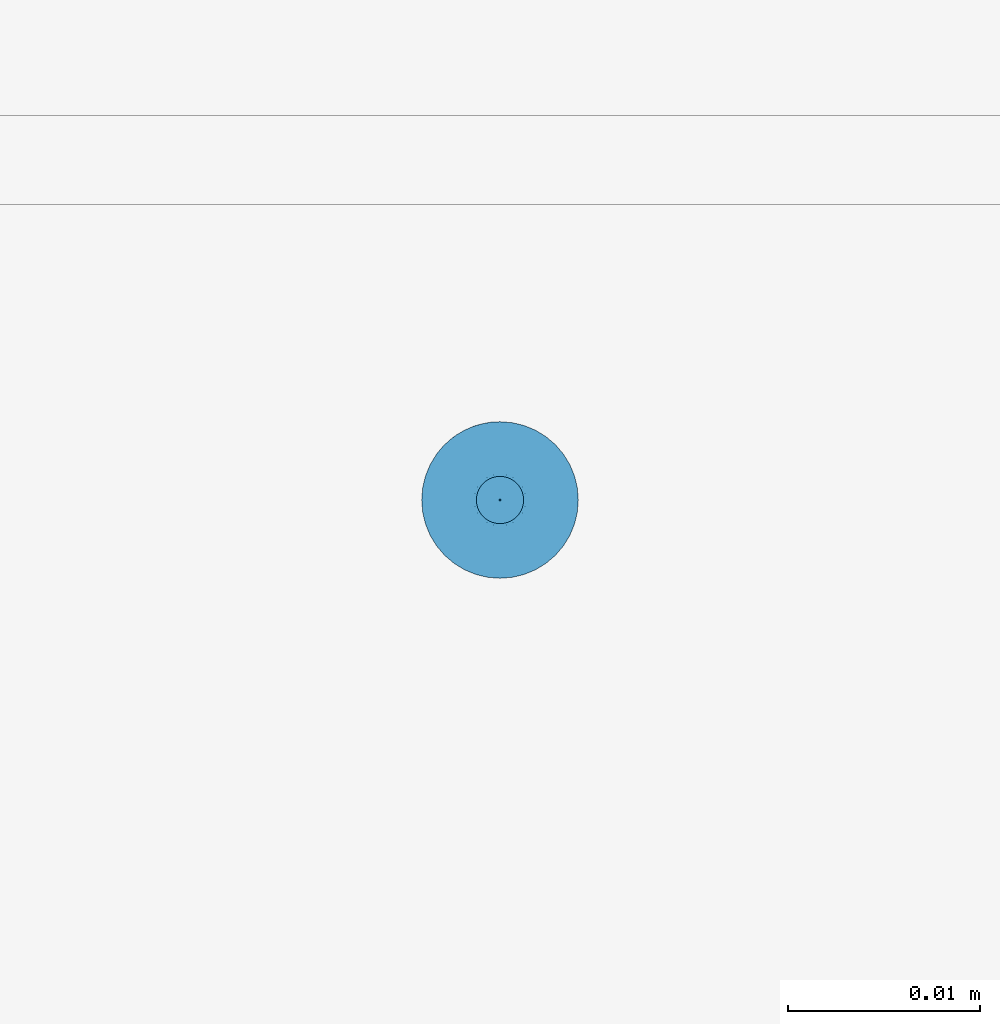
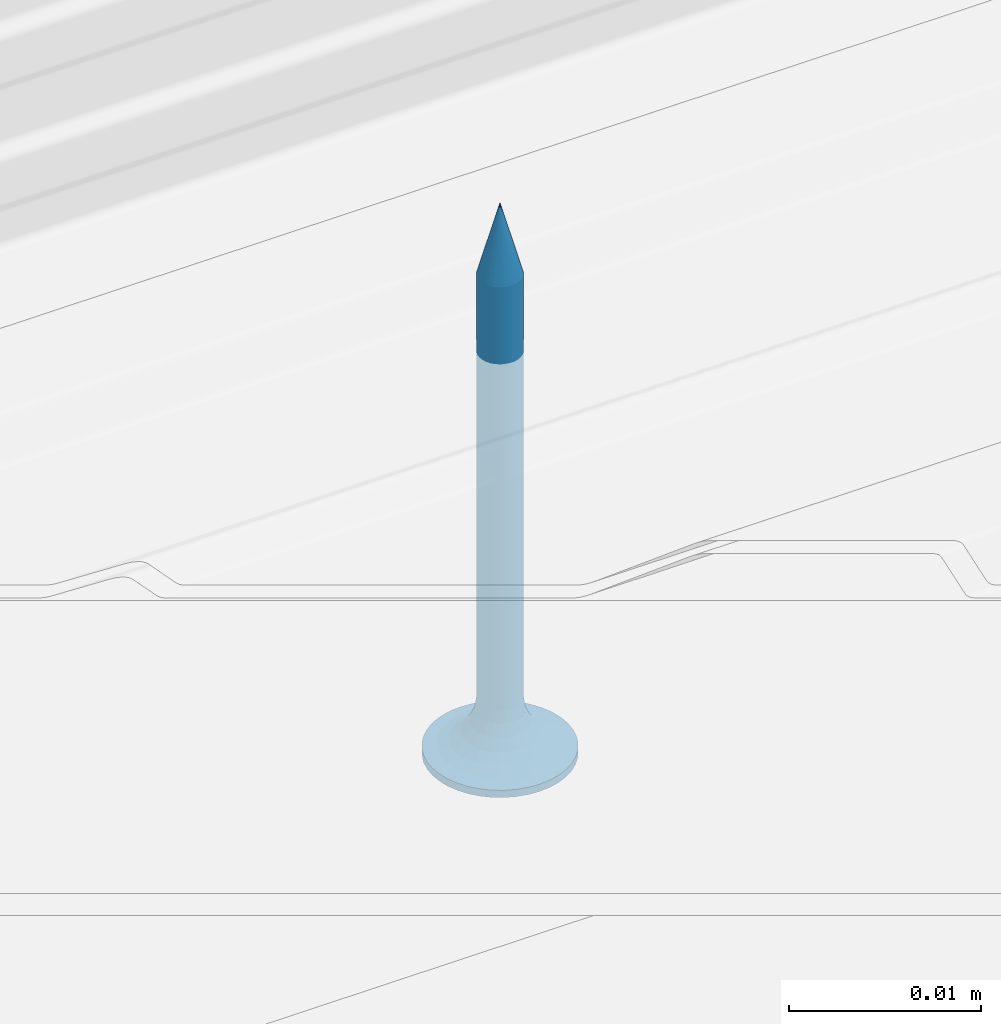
# One storey, part 12 of 73: 1 slab.
"""IFC2X3 building model written with IfcOpenShell, lengths in millimetres."""

from ifc_helpers import new_model, entity, si_unit, converted_unit, direction, frame, origin, origin_with_axes, place, context, project, spatial, faceted_brep, element, save


model = new_model("IFC2X3")

# Units and contexts
model_context = context("Model", 3, precision=1e-05, world=origin(), true_north=direction((0.0, 1.0, 0.0)))
ifc_project = project(units=[si_unit("LENGTHUNIT", "METRE", prefix="MILLI"), si_unit("AREAUNIT", "SQUARE_METRE"), si_unit("VOLUMEUNIT", "CUBIC_METRE"), converted_unit("PLANEANGLEUNIT", "DEGREE", entity("IfcPlaneAngleMeasure", 0.01745), si_unit("PLANEANGLEUNIT", "RADIAN"), dimensions=[0, 0, 0, 0, 0, 0, 0]), si_unit("SOLIDANGLEUNIT", "STERADIAN"), si_unit("MASSUNIT", "GRAM"), si_unit("TIMEUNIT", "SECOND"), si_unit("THERMODYNAMICTEMPERATUREUNIT", "DEGREE_CELSIUS"), si_unit("LUMINOUSINTENSITYUNIT", "LUMEN")], contexts=[model_context])

# Site, building, storey
site_placement = place(None, origin_with_axes())
site = spatial("IfcSite", under=ifc_project, at=site_placement, Name="Default Site", CompositionType="ELEMENT")
building_placement = place(site_placement, origin_with_axes())
building = spatial("IfcBuilding", under=site, at=building_placement, Name="Default Building", CompositionType="ELEMENT")
storey_placement = place(building_placement, origin_with_axes())
storey = spatial("IfcBuildingStorey", under=building, at=storey_placement, Name="Default Building Storey", CompositionType="ELEMENT", Elevation=0.0)

# Slab
slab_placement = place(storey_placement, frame((2340.616074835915, 2284.732776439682, 4358.529348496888), z_axis=(0.0, -1.0, 2.220446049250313e-16), x_axis=(1.0, 1.802054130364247e-31, 8.115730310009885e-16)))
element("IfcSlab", 1, at=slab_placement, inside=storey, Name="Wkręt RIGIPS TN 35", context=model_context, shape_type="Brep", body=[
    faceted_brep([(-138.4548091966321, -3360.55807436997, 556.5233405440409), (-138.3293964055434, -3360.55807436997, 556.6701800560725), (-138.3293964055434, -3387.475459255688, 556.6701800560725), (-138.4548091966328, -3387.475459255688, 556.5233405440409), (-137.2667048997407, -3387.475459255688, 554.5845305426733), (-137.2667048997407, -3360.55807436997, 554.5845305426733), (-137.4592163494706, -3360.55807436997, 554.5693795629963), (-137.4592163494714, -3387.475459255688, 554.5693795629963), (-136.5890362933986, -3387.475459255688, 554.9298199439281), (-136.4636235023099, -3387.475459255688, 555.0766594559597), (-136.4636235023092, -3360.55807436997, 555.0766594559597), (-136.5890362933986, -3360.55807436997, 554.9298199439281), (-136.4636235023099, -3387.475459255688, 556.5233405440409), (-136.5890362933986, -3387.475459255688, 556.6701800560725), (-136.5890362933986, -3360.55807436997, 556.6701800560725), (-136.4636235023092, -3360.55807436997, 556.5233405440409), (-136.9005263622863, -3387.475459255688, 554.7035091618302), (-136.9005263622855, -3360.55807436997, 554.7035091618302), (-137.0789337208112, -3360.55807436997, 554.6296104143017), (-137.078933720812, -3387.475459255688, 554.6296104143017), (-136.7358758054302, -3360.55807436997, 554.8044071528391), (-136.7358758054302, -3387.475459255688, 554.8044071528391), (-137.6517277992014, -3360.55807436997, 554.5845305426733), (-137.6517277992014, -3387.475459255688, 554.5845305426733), (-136.7358758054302, -3387.475459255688, 556.7955928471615), (-136.7358758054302, -3360.55807436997, 556.7955928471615), (-137.83949897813, -3360.55807436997, 554.6296104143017), (-137.8394989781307, -3387.475459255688, 554.6296104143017), (-138.6746858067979, -3360.55807436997, 555.6074885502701), (-138.6898367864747, -3360.55807436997, 555.8000000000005), (-138.6898367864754, -3387.475459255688, 555.8000000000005), (-138.6746858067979, -3387.475459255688, 555.6074885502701), (-138.3293964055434, -3360.55807436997, 554.9298199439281), (-138.4548091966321, -3360.55807436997, 555.0766594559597), (-138.4548091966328, -3387.475459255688, 555.0766594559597), (-138.3293964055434, -3387.475459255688, 554.9298199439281), (-138.0179063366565, -3387.475459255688, 554.7035091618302), (-138.0179063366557, -3360.55807436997, 554.7035091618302), (-138.1825568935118, -3360.55807436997, 554.8044071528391), (-138.1825568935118, -3387.475459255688, 554.8044071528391), (-136.2888267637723, -3387.475459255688, 555.4197173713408), (-136.2437468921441, -3387.475459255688, 555.6074885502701), (-136.2437468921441, -3360.55807436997, 555.6074885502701), (-136.2888267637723, -3360.55807436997, 555.4197173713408), (-138.6296059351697, -3360.55807436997, 555.4197173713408), (-138.6296059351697, -3387.475459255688, 555.4197173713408), (-136.9005263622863, -3387.475459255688, 556.8964908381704), (-136.9005263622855, -3360.55807436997, 556.8964908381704), (-137.4592163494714, -3387.475459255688, 557.0306204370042), (-137.4592163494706, -3360.55807436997, 557.0306204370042), (-137.2667048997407, -3360.55807436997, 557.0154694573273), (-137.2667048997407, -3387.475459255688, 557.0154694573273), (-138.1825568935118, -3387.475459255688, 556.7955928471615), (-138.1825568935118, -3360.55807436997, 556.7955928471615), (-138.0179063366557, -3360.55807436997, 556.8964908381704), (-138.0179063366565, -3387.475459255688, 556.8964908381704), (-136.3627255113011, -3387.475459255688, 556.3586899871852), (-136.3627255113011, -3360.55807436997, 556.3586899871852), (-136.3627255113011, -3387.475459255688, 555.241310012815), (-136.3627255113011, -3360.55807436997, 555.241310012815), (-138.5557071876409, -3360.55807436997, 555.241310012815), (-138.5557071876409, -3387.475459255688, 555.241310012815), (-136.2285959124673, -3387.475459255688, 555.8000000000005), (-136.2285959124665, -3360.55807436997, 555.8000000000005), (-137.8394989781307, -3387.475459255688, 556.9703895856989), (-137.83949897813, -3360.55807436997, 556.9703895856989), (-137.6517277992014, -3360.55807436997, 557.0154694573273), (-137.6517277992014, -3387.475459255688, 557.0154694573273), (-137.078933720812, -3387.475459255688, 556.9703895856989), (-137.0789337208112, -3360.55807436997, 556.9703895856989), (-136.2437468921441, -3387.475459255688, 555.9925114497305), (-136.2437468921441, -3360.55807436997, 555.9925114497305), (-138.6746858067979, -3360.55807436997, 555.9925114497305), (-138.6746858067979, -3387.475459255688, 555.9925114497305), (-138.6296059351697, -3360.55807436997, 556.1802826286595), (-138.6296059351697, -3387.475459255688, 556.1802826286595), (-136.2888267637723, -3387.475459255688, 556.1802826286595), (-136.2888267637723, -3360.55807436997, 556.1802826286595), (-138.5557071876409, -3360.55807436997, 556.3586899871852), (-138.5557071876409, -3387.475459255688, 556.3586899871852), (-141.5377463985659, -3390.556721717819, 555.8000000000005), (-141.5377463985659, -3391.020944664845, 555.8000000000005), (-141.4875329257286, -3391.020944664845, 555.1619773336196), (-141.4875329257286, -3390.556721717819, 555.1619773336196), (-141.338128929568, -3391.020944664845, 554.539664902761), (-141.338128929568, -3390.556721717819, 554.539664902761), (-141.0932132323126, -3391.020944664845, 553.948386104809), (-141.0932132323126, -3390.556721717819, 553.948386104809), (-140.7588164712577, -3391.020944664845, 553.4027001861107), (-140.7588164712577, -3390.556721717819, 553.4027001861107), (-140.3431726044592, -3391.020944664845, 552.9160437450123), (-140.4541727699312, -3390.556721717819, 553.0314907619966), (-140.1080097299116, -3390.556721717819, 552.6986614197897), (-139.8565161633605, -3391.020944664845, 552.5003998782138), (-139.7251262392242, -3390.556721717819, 552.4088262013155), (-139.3108302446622, -3391.020944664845, 552.1660031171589), (-139.3108302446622, -3390.556721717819, 552.1660031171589), (-138.8708651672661, -3390.556721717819, 551.9735584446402), (-138.7195514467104, -3391.020944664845, 551.9210874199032), (-138.4113302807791, -3390.556721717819, 551.8341600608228), (-137.9385961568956, -3390.556721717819, 551.7497404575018), (-138.0972390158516, -3391.020944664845, 551.7716834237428), (-137.4592163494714, -3391.020944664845, 551.7214699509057), (-137.4592163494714, -3390.556721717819, 551.7214699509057), (-136.8211936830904, -3391.020944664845, 551.7716834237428), (-136.8211936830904, -3390.556721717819, 551.7716834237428), (-136.1988812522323, -3391.020944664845, 551.9210874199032), (-136.1988812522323, -3390.556721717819, 551.9210874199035), (-135.6076024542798, -3391.020944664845, 552.1660031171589), (-135.6076024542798, -3390.556721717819, 552.1660031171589), (-135.0619165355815, -3391.020944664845, 552.5003998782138), (-135.0619165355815, -3390.556721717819, 552.5003998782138), (-134.5752600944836, -3391.020944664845, 552.9160437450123), (-134.5752600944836, -3390.556721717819, 552.9160437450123), (-134.1596162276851, -3391.020944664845, 553.4027001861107), (-134.1596162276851, -3390.556721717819, 553.4027001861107), (-133.8252194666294, -3391.020944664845, 553.948386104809), (-133.8252194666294, -3390.556721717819, 553.948386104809), (-133.580303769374, -3391.020944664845, 554.539664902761), (-133.580303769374, -3390.556721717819, 554.539664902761), (-133.4308997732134, -3391.020944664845, 556.438022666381), (-133.4308997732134, -3390.556721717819, 556.438022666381), (-133.3806863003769, -3390.556721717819, 555.8000000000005), (-133.3806863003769, -3391.020944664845, 555.8000000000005), (-133.4308997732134, -3390.556721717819, 555.1619773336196), (-133.4308997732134, -3391.020944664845, 555.1619773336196), (-133.580303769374, -3391.020944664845, 557.0603350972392), (-133.580303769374, -3390.556721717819, 557.0603350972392), (-133.8252194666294, -3391.020944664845, 557.6516138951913), (-133.8252194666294, -3390.556721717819, 557.6516138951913), (-134.1596162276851, -3391.020944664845, 558.1972998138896), (-134.1596162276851, -3390.556721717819, 558.1972998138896), (-134.5752600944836, -3391.020944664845, 558.683956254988), (-134.5752600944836, -3390.556721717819, 558.683956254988), (-135.0619165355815, -3391.020944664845, 559.0996001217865), (-135.0619165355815, -3390.556721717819, 559.0996001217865), (-135.6076024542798, -3391.020944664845, 559.4339968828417), (-135.6076024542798, -3390.556721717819, 559.4339968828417), (-136.1988812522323, -3391.020944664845, 559.6789125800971), (-136.1988812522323, -3390.556721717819, 559.6789125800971), (-136.8211936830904, -3391.020944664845, 559.8283165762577), (-136.8211936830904, -3390.556721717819, 559.8283165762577), (-137.4592163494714, -3391.020944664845, 559.8785300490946), (-137.4592163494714, -3390.556721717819, 559.8785300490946), (-138.0972390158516, -3391.020944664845, 559.8283165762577), (-138.0972390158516, -3390.556721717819, 559.8283165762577), (-138.7195514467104, -3391.020944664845, 559.6789125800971), (-138.7195514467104, -3390.556721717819, 559.6789125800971), (-139.3108302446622, -3391.020944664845, 559.4339968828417), (-139.3108302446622, -3390.556721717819, 559.4339968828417), (-139.8565161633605, -3391.020944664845, 559.0996001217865), (-139.8565161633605, -3390.556721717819, 559.0996001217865), (-140.3431726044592, -3391.020944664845, 558.683956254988), (-140.3431726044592, -3390.556721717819, 558.683956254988), (-140.7588164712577, -3391.020944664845, 558.1972998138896), (-140.7588164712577, -3390.556721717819, 558.1972998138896), (-141.0932132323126, -3391.020944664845, 557.6516138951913), (-141.0932132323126, -3390.556721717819, 557.6516138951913), (-141.338128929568, -3391.020944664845, 557.0603350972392), (-141.338128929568, -3390.556721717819, 557.0603350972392), (-141.4875329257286, -3391.020944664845, 556.438022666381), (-141.4875329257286, -3390.556721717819, 556.438022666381), (-137.8060615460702, -3388.229732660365, 554.5055560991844), (-137.4592163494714, -3388.229732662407, 554.4598930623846), (-138.1292698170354, -3388.229732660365, 554.6394333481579), (-138.4068150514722, -3388.229732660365, 554.8524012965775), (-138.6197830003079, -3388.229732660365, 555.1299465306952), (-138.7536602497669, -3388.229732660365, 555.4531548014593), (-138.7993232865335, -3388.229732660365, 555.7999999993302), (-138.7536602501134, -3388.229732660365, 556.1468451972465), (-138.6197830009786, -3388.229732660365, 556.4700534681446), (-138.4068150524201, -3388.229732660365, 556.7475987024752), (-138.1292698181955, -3388.229732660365, 556.9605666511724), (-137.8060615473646, -3388.229732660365, 557.0944439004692), (-137.4592163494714, -3388.229732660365, 557.1401069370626), (-137.1123711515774, -3388.229732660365, 557.0944439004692), (-136.7891628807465, -3388.229732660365, 556.9605666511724), (-136.5116176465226, -3388.229732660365, 556.7475987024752), (-136.2986496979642, -3388.229732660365, 556.4700534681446), (-136.1647724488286, -3388.229732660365, 556.1468451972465), (-136.1191094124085, -3388.229732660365, 555.7999999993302), (-136.1647724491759, -3388.229732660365, 555.4531548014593), (-136.2986496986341, -3388.229732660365, 555.1299465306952), (-136.5116176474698, -3388.229732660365, 554.8524012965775), (-136.7891628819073, -3388.229732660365, 554.6394333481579), (-137.1123711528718, -3388.229732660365, 554.5055560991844), (-137.4592163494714, -3388.936142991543, 554.1737111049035), (-137.8801308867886, -3388.936142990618, 554.2291255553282), (-138.2723607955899, -3388.936142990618, 554.39159250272), (-138.6091762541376, -3388.936142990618, 554.6500400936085), (-138.8676238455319, -3388.936142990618, 554.9868555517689), (-139.0300907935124, -3388.936142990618, 555.3790854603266), (-139.0855052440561, -3388.936142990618, 555.7999999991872), (-139.0300907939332, -3388.936142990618, 556.2209145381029), (-138.8676238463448, -3388.936142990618, 556.6131444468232), (-138.6091762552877, -3388.936142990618, 556.949959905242), (-138.2723607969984, -3388.936142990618, 557.2084074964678), (-137.8801308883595, -3388.936142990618, 557.3708744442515), (-137.4592163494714, -3388.936142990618, 557.4262888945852), (-137.0383018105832, -3388.936142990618, 557.3708744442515), (-136.6460719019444, -3388.936142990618, 557.2084074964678), (-136.3092564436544, -3388.936142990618, 556.949959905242), (-136.0508088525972, -3388.936142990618, 556.6131444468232), (-135.8883419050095, -3388.936142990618, 556.2209145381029), (-135.8329274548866, -3388.936142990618, 555.7999999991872), (-135.8883419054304, -3388.936142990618, 555.3790854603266), (-136.0508088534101, -3388.936142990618, 554.9868555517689), (-136.3092564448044, -3388.936142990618, 554.6500400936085), (-136.6460719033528, -3388.936142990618, 554.39159250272), (-137.0383018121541, -3388.936142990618, 554.2291255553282), (-137.4592163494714, -3389.553938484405, 553.727343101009), (-137.9956594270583, -3389.553938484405, 553.7979671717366), (-138.4955447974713, -3389.553938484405, 554.0050264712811), (-138.9248060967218, -3389.553938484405, 554.3344102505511), (-139.2541898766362, -3389.553938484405, 554.7636715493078), (-139.46124917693, -3389.553938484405, 555.2635569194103), (-139.5318732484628, -3389.553938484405, 555.7999999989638), (-139.4612491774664, -3389.553938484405, 556.3364430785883), (-139.2541898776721, -3389.553938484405, 556.8363284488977), (-138.9248060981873, -3389.553938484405, 557.2655897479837), (-138.495544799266, -3389.553938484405, 557.5949735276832), (-137.9956594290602, -3389.553938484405, 557.8020328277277), (-137.4592163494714, -3389.553938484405, 557.8726568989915), (-136.9227732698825, -3389.553938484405, 557.8020328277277), (-136.422887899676, -3389.553938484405, 557.5949735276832), (-135.9936266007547, -3389.553938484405, 557.2655897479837), (-135.6642428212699, -3389.553938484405, 556.8363284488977), (-135.4571835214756, -3389.553938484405, 556.3364430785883), (-135.3865594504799, -3389.553938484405, 555.7999999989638), (-135.457183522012, -3389.553938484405, 555.2635569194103), (-135.6642428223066, -3389.553938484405, 554.7636715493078), (-135.9936266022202, -3389.553938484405, 554.3344102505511), (-136.4228879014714, -3389.553938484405, 554.0050264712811), (-136.9227732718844, -3389.553938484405, 553.7979671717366), (-137.4592163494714, -3390.04747944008, 553.1465393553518), (-138.1459824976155, -3390.047479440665, 553.2369538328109), (-138.7859466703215, -3390.047479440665, 553.5020356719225), (-139.3354963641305, -3390.047479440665, 553.9237199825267), (-139.757180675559, -3390.047479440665, 554.4732696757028), (-140.0222625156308, -3390.047479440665, 555.1132338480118), (-140.1126769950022, -3390.047479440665, 555.7999999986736), (-140.0222625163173, -3390.047479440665, 556.4867661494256), (-139.7571806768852, -3390.047479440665, 557.1267303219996), (-139.3354963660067, -3390.047479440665, 557.6762800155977), (-138.7859466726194, -3390.047479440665, 558.0979643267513), (-138.1459825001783, -3390.047479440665, 558.3630461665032), (-137.4592163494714, -3390.047479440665, 558.4534606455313), (-136.7724501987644, -3390.047479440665, 558.3630461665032), (-136.1324860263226, -3390.047479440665, 558.0979643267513), (-135.5829363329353, -3390.047479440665, 557.6762800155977), (-135.1612520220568, -3390.047479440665, 557.1267303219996), (-134.8961701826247, -3390.047479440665, 556.4867661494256), (-134.8057557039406, -3390.047479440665, 555.7999999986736), (-134.8961701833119, -3390.047479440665, 555.1132338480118), (-135.1612520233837, -3390.047479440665, 554.4732696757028), (-135.5829363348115, -3390.047479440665, 553.9237199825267), (-136.1324860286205, -3390.047479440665, 553.5020356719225), (-136.7724502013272, -3390.047479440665, 553.2369538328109), (-137.4592163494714, -3390.388294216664, 552.4648055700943), (-138.3224281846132, -3390.388294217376, 552.5784495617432), (-139.1268135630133, -3390.388294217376, 552.9116368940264), (-139.8175549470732, -3390.388294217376, 553.4416613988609), (-140.3475794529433, -3390.388294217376, 554.1324027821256), (-140.6807667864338, -3390.388294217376, 554.9367881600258), (-140.7944107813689, -3390.388294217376, 555.7999999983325), (-140.6807667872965, -3390.388294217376, 556.6632118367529), (-140.3475794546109, -3390.388294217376, 557.4675972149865), (-139.8175549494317, -3390.388294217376, 558.1583385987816), (-139.1268135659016, -3390.388294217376, 558.6883631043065), (-138.3224281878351, -3390.388294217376, 559.0215504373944), (-137.4592163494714, -3390.388294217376, 559.1351944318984), (-136.5960045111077, -3390.388294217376, 559.0215504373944), (-135.7916191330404, -3390.388294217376, 558.6883631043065), (-135.1008777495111, -3390.388294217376, 558.1583385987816), (-134.5708532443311, -3390.388294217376, 557.4675972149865), (-134.2376659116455, -3390.388294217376, 556.6632118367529), (-134.1240219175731, -3390.388294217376, 555.7999999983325), (-134.2376659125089, -3390.388294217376, 554.9367881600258), (-134.5708532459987, -3390.388294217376, 554.1324027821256), (-135.1008777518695, -3390.388294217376, 553.4416613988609), (-135.7916191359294, -3390.388294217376, 552.9116368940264), (-136.5960045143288, -3390.388294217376, 552.5784495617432), (-137.4592163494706, -3356.021033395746, 555.8000000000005), (-139.9592163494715, -3391.020944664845, 556.3000000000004), (-137.9592163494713, -3391.020944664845, 556.3000000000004), (-139.9592163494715, -3391.020944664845, 555.3000000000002), (-137.9592163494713, -3391.020944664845, 555.3000000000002), (-137.9592163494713, -3391.020944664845, 553.3000000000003), (-136.9592163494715, -3391.020944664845, 553.3000000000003), (-136.9592163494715, -3391.020944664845, 555.3000000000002), (-134.9592163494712, -3391.020944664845, 555.3000000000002), (-134.9592163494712, -3391.020944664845, 556.3000000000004), (-136.9592163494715, -3391.020944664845, 556.3000000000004), (-136.9592163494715, -3391.020944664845, 558.3000000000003), (-137.9592163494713, -3391.020944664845, 558.3000000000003), (-136.9592163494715, -3390.128974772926, 556.3000000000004), (-134.9592163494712, -3390.128974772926, 556.3000000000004), (-134.9592163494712, -3390.128974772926, 555.3000000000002), (-136.9592163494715, -3390.128974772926, 555.3000000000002), (-136.9592163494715, -3390.128974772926, 553.3000000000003), (-137.9592163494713, -3390.128974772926, 553.3000000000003), (-137.9592163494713, -3390.128974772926, 555.3000000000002), (-139.9592163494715, -3390.128974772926, 555.3000000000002), (-139.9592163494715, -3390.128974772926, 556.3000000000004), (-137.9592163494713, -3390.128974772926, 556.3000000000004), (-137.9592163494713, -3390.128974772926, 558.3000000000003), (-136.9592163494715, -3390.128974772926, 558.3000000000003)], [[[0, 1, 2, 3]], [[4, 5, 6, 7]], [[8, 9, 10, 11]], [[12, 13, 14, 15]], [[16, 17, 18, 19]], [[8, 11, 20, 21]], [[7, 6, 22, 23]], [[24, 25, 14, 13]], [[23, 22, 26, 27]], [[28, 29, 30, 31]], [[32, 33, 34, 35]], [[36, 37, 38, 39]], [[39, 38, 32, 35]], [[40, 41, 42, 43]], [[44, 28, 31, 45]], [[46, 47, 25, 24]], [[21, 20, 17, 16]], [[48, 49, 50, 51]], [[52, 53, 54, 55]], [[56, 12, 15, 57]], [[9, 58, 59, 10]], [[33, 60, 61, 34]], [[41, 62, 63, 42]], [[64, 65, 66, 67]], [[68, 69, 47, 46]], [[58, 40, 43, 59]], [[2, 1, 53, 52]], [[19, 18, 5, 4]], [[27, 26, 37, 36]], [[62, 70, 71, 63]], [[55, 54, 65, 64]], [[67, 66, 49, 48]], [[29, 72, 73, 30]], [[72, 74, 75, 73]], [[70, 76, 77, 71]], [[60, 44, 45, 61]], [[51, 50, 69, 68]], [[74, 78, 79, 75]], [[78, 0, 3, 79]], [[76, 56, 57, 77]], [[80, 81, 82, 83]], [[84, 85, 83, 82]], [[86, 87, 85, 84]], [[87, 86, 88, 89]], [[88, 90, 89]], [[90, 91, 89]], [[92, 91, 93]], [[91, 90, 93]], [[93, 94, 92]], [[93, 95, 94]], [[95, 96, 94]], [[97, 96, 98]], [[96, 95, 98]], [[98, 99, 97]], [[100, 99, 101]], [[99, 98, 101]], [[101, 102, 100]], [[102, 103, 100]], [[103, 102, 104, 105]], [[106, 107, 105, 104]], [[108, 109, 107, 106]], [[109, 108, 110, 111]], [[112, 113, 111, 110]], [[113, 112, 114, 115]], [[116, 117, 115, 114]], [[118, 119, 117, 116]], [[120, 121, 122, 123]], [[123, 122, 124, 125]], [[119, 118, 125, 124]], [[126, 127, 121, 120]], [[128, 129, 127, 126]], [[129, 128, 130, 131]], [[132, 133, 131, 130]], [[133, 132, 134, 135]], [[136, 137, 135, 134]], [[138, 139, 137, 136]], [[139, 138, 140, 141]], [[142, 143, 141, 140]], [[143, 142, 144, 145]], [[146, 147, 145, 144]], [[148, 149, 147, 146]], [[149, 148, 150, 151]], [[152, 153, 151, 150]], [[153, 152, 154, 155]], [[156, 157, 155, 154]], [[158, 159, 157, 156]], [[159, 158, 160, 161]], [[81, 80, 161, 160]], [[162, 7, 23]], [[162, 163, 7]], [[23, 27, 162]], [[162, 27, 164]], [[36, 164, 27]], [[164, 36, 39]], [[39, 165, 164]], [[39, 35, 165]], [[166, 35, 34]], [[166, 165, 35]], [[34, 61, 166]], [[166, 61, 167]], [[45, 167, 61]], [[167, 45, 31]], [[31, 168, 167]], [[31, 30, 168]], [[169, 30, 73]], [[169, 168, 30]], [[73, 75, 169]], [[169, 75, 170]], [[79, 170, 75]], [[170, 79, 3]], [[3, 171, 170]], [[3, 2, 171]], [[172, 2, 52]], [[172, 171, 2]], [[52, 55, 172]], [[172, 55, 173]], [[64, 173, 55]], [[173, 64, 67]], [[67, 174, 173]], [[67, 48, 174]], [[175, 48, 51]], [[175, 174, 48]], [[51, 68, 175]], [[175, 68, 176]], [[46, 176, 68]], [[176, 46, 24]], [[24, 177, 176]], [[24, 13, 177]], [[178, 13, 12]], [[178, 177, 13]], [[12, 56, 178]], [[178, 56, 179]], [[76, 179, 56]], [[179, 76, 70]], [[70, 180, 179]], [[70, 62, 180]], [[181, 62, 41]], [[181, 180, 62]], [[41, 40, 181]], [[181, 40, 182]], [[58, 182, 40]], [[182, 58, 9]], [[9, 183, 182]], [[9, 8, 183]], [[184, 8, 21]], [[184, 183, 8]], [[21, 16, 184]], [[184, 16, 185]], [[19, 185, 16]], [[185, 19, 4]], [[4, 163, 185]], [[4, 7, 163]], [[186, 163, 187]], [[162, 187, 163]], [[164, 188, 187, 162]], [[165, 189, 188, 164]], [[166, 190, 189, 165]], [[167, 191, 190, 166]], [[168, 192, 191, 167]], [[169, 193, 192, 168]], [[170, 194, 193, 169]], [[171, 195, 194, 170]], [[172, 196, 195, 171]], [[173, 197, 196, 172]], [[174, 198, 197, 173]], [[175, 199, 198, 174]], [[176, 200, 199, 175]], [[177, 201, 200, 176]], [[178, 202, 201, 177]], [[179, 203, 202, 178]], [[180, 204, 203, 179]], [[181, 205, 204, 180]], [[182, 206, 205, 181]], [[183, 207, 206, 182]], [[184, 208, 207, 183]], [[185, 209, 208, 184]], [[185, 163, 209]], [[186, 209, 163]], [[210, 186, 211]], [[187, 211, 186]], [[188, 212, 211, 187]], [[189, 213, 212, 188]], [[190, 214, 213, 189]], [[191, 215, 214, 190]], [[192, 216, 215, 191]], [[193, 217, 216, 192]], [[194, 218, 217, 193]], [[195, 219, 218, 194]], [[196, 220, 219, 195]], [[197, 221, 220, 196]], [[198, 222, 221, 197]], [[199, 223, 222, 198]], [[200, 224, 223, 199]], [[201, 225, 224, 200]], [[202, 226, 225, 201]], [[203, 227, 226, 202]], [[204, 228, 227, 203]], [[205, 229, 228, 204]], [[206, 230, 229, 205]], [[207, 231, 230, 206]], [[208, 232, 231, 207]], [[209, 233, 232, 208]], [[209, 186, 233]], [[210, 233, 186]], [[234, 210, 235]], [[211, 235, 210]], [[212, 236, 235, 211]], [[213, 237, 236, 212]], [[214, 238, 237, 213]], [[215, 239, 238, 214]], [[216, 240, 239, 215]], [[217, 241, 240, 216]], [[218, 242, 241, 217]], [[219, 243, 242, 218]], [[220, 244, 243, 219]], [[221, 245, 244, 220]], [[222, 246, 245, 221]], [[223, 247, 246, 222]], [[224, 248, 247, 223]], [[225, 249, 248, 224]], [[226, 250, 249, 225]], [[227, 251, 250, 226]], [[228, 252, 251, 227]], [[229, 253, 252, 228]], [[230, 254, 253, 229]], [[231, 255, 254, 230]], [[232, 256, 255, 231]], [[233, 257, 256, 232]], [[233, 210, 257]], [[234, 257, 210]], [[258, 99, 100]], [[258, 259, 99]], [[100, 103, 258]], [[258, 234, 259]], [[235, 259, 234]], [[259, 96, 97]], [[259, 260, 96]], [[97, 99, 259]], [[236, 260, 259, 235]], [[261, 91, 92]], [[260, 92, 94]], [[260, 261, 92]], [[94, 96, 260]], [[237, 261, 260, 236]], [[262, 87, 89]], [[89, 261, 262]], [[89, 91, 261]], [[238, 262, 261, 237]], [[85, 87, 263]], [[262, 263, 87]], [[239, 263, 262, 238]], [[263, 80, 83]], [[263, 264, 80]], [[83, 85, 263]], [[240, 264, 263, 239]], [[265, 159, 161]], [[161, 264, 265]], [[161, 80, 264]], [[241, 265, 264, 240]], [[265, 266, 157, 159]], [[242, 266, 265, 241]], [[266, 153, 155]], [[266, 267, 153]], [[155, 157, 266]], [[243, 267, 266, 242]], [[268, 149, 151]], [[151, 267, 268]], [[151, 153, 267]], [[244, 268, 267, 243]], [[268, 269, 147, 149]], [[245, 269, 268, 244]], [[269, 143, 145]], [[269, 270, 143]], [[145, 147, 269]], [[246, 270, 269, 245]], [[271, 139, 141]], [[141, 270, 271]], [[141, 143, 270]], [[247, 271, 270, 246]], [[271, 272, 137, 139]], [[248, 272, 271, 247]], [[272, 133, 135]], [[272, 273, 133]], [[135, 137, 272]], [[249, 273, 272, 248]], [[274, 129, 131]], [[131, 273, 274]], [[131, 133, 273]], [[250, 274, 273, 249]], [[274, 275, 127, 129]], [[251, 275, 274, 250]], [[275, 122, 121]], [[275, 276, 122]], [[121, 127, 275]], [[252, 276, 275, 251]], [[277, 119, 124]], [[124, 276, 277]], [[124, 122, 276]], [[253, 277, 276, 252]], [[117, 119, 278]], [[277, 278, 119]], [[254, 278, 277, 253]], [[278, 113, 115]], [[278, 279, 113]], [[115, 117, 278]], [[255, 279, 278, 254]], [[280, 109, 111]], [[111, 279, 280]], [[111, 113, 279]], [[256, 280, 279, 255]], [[107, 109, 281]], [[280, 281, 109]], [[257, 281, 280, 256]], [[257, 234, 281]], [[258, 281, 234]], [[281, 103, 105]], [[281, 258, 103]], [[105, 107, 281]], [[28, 44, 282]], [[282, 29, 28]], [[44, 60, 282]], [[33, 32, 282]], [[282, 60, 33]], [[38, 37, 282]], [[282, 32, 38]], [[37, 26, 282]], [[22, 6, 282]], [[282, 26, 22]], [[5, 18, 282]], [[282, 6, 5]], [[18, 17, 282]], [[20, 11, 282]], [[282, 17, 20]], [[10, 59, 282]], [[282, 11, 10]], [[59, 43, 282]], [[42, 63, 282]], [[282, 43, 42]], [[71, 77, 282]], [[282, 63, 71]], [[77, 57, 282]], [[15, 14, 282]], [[282, 57, 15]], [[25, 47, 282]], [[282, 14, 25]], [[47, 69, 282]], [[50, 49, 282]], [[282, 69, 50]], [[66, 65, 282]], [[282, 49, 66]], [[65, 54, 282]], [[53, 1, 282]], [[282, 54, 53]], [[0, 78, 282]], [[282, 1, 0]], [[78, 74, 282]], [[72, 29, 282]], [[282, 74, 72]], [[283, 156, 154, 284]], [[283, 285, 286, 287, 288, 289, 290, 291, 292, 293, 294, 284, 154, 152, 150, 148, 146, 144, 142, 140, 138, 136, 134, 132, 130, 128, 126, 120, 123, 125, 118, 116, 114, 112, 110, 108, 106, 104, 102, 101, 98, 95, 93, 90, 88, 86, 84, 82, 81, 160, 158, 156]], [[295, 296, 297, 298, 299, 300, 301, 302, 303, 304, 305, 306]], [[297, 290, 289, 298]], [[296, 291, 290, 297]], [[295, 292, 291, 296]], [[306, 293, 292, 295]], [[305, 294, 293, 306]], [[304, 284, 294, 305]], [[303, 283, 284, 304]], [[302, 285, 283, 303]], [[301, 286, 285, 302]], [[300, 287, 286, 301]], [[299, 288, 287, 300]], [[298, 289, 288, 299]]]),
])

save(model, "model.ifc")
